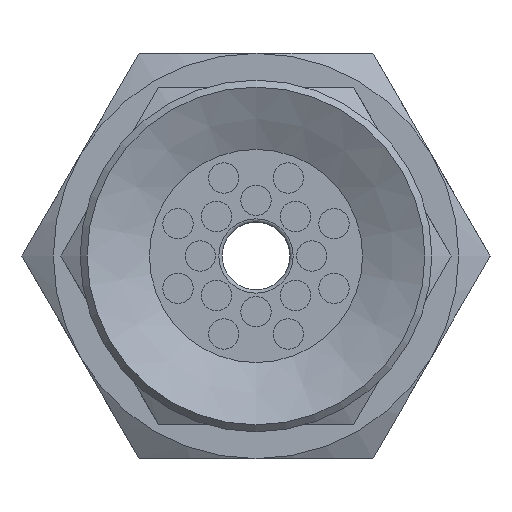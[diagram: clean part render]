
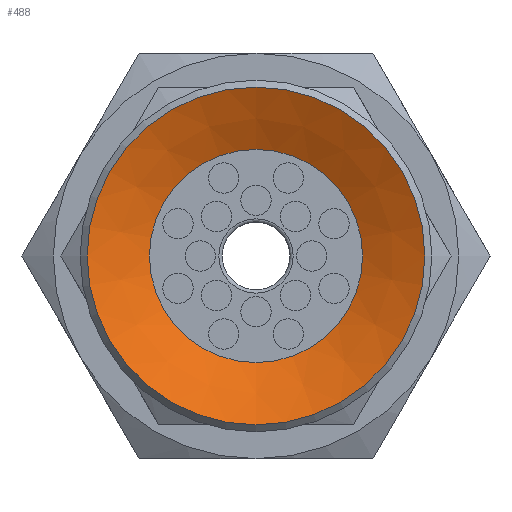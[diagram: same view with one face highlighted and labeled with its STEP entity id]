
A CAD part, front view. The second image highlights one B-rep face of the part: STEP entity #488.
In plain terms, the highlighted conical face has half-angle 64 degrees and reference radius 5 mm.
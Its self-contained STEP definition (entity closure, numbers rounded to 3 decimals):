
#488=ADVANCED_FACE('',(#749,#750),#751,.F.);
#749=FACE_BOUND('',#1076,.T.);
#750=FACE_OUTER_BOUND('',#1077,.T.);
#751=CONICAL_SURFACE('',#1078,5.0,1.117);
#1076=EDGE_LOOP('',(#1734));
#1077=EDGE_LOOP('',(#1735));
#1078=AXIS2_PLACEMENT_3D('',#1736,#1737,#1738);
#1734=ORIENTED_EDGE('',*,*,#2048,.T.);
#1735=ORIENTED_EDGE('',*,*,#2049,.F.);
#1736=CARTESIAN_POINT('',(0.0,0.,0.));
#1737=DIRECTION('',(0.0,0.,-1.0));
#1738=DIRECTION('',(0.0,1.0,0.));
#2048=EDGE_CURVE('',#2339,#2339,#2340,.T.);
#2049=EDGE_CURVE('',#2341,#2341,#2342,.T.);
#2339=VERTEX_POINT('',#2963);
#2340=CIRCLE('',#2964,3.155);
#2341=VERTEX_POINT('',#2965);
#2342=CIRCLE('',#2966,5.0);
#2963=CARTESIAN_POINT('',(0.0,-3.155,0.9));
#2964=AXIS2_PLACEMENT_3D('',#3283,#3284,#3285);
#2965=CARTESIAN_POINT('',(0.0,-5.0,0.));
#2966=AXIS2_PLACEMENT_3D('',#3286,#3287,#3288);
#3283=CARTESIAN_POINT('',(0.0,0.,0.9));
#3284=DIRECTION('',(0.0,0.,1.0));
#3285=DIRECTION('',(0.0,-1.0,0.));
#3286=CARTESIAN_POINT('',(0.0,0.,0.));
#3287=DIRECTION('',(0.0,0.,1.0));
#3288=DIRECTION('',(0.0,-1.0,0.));
